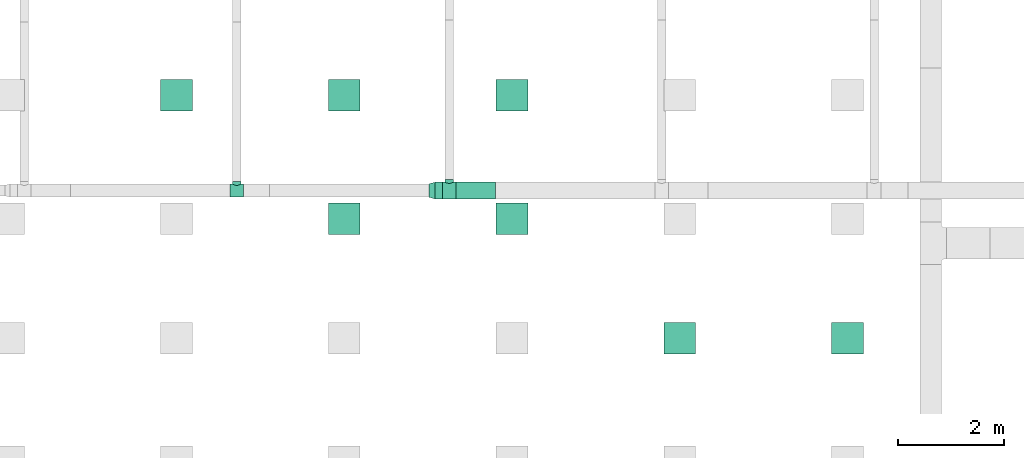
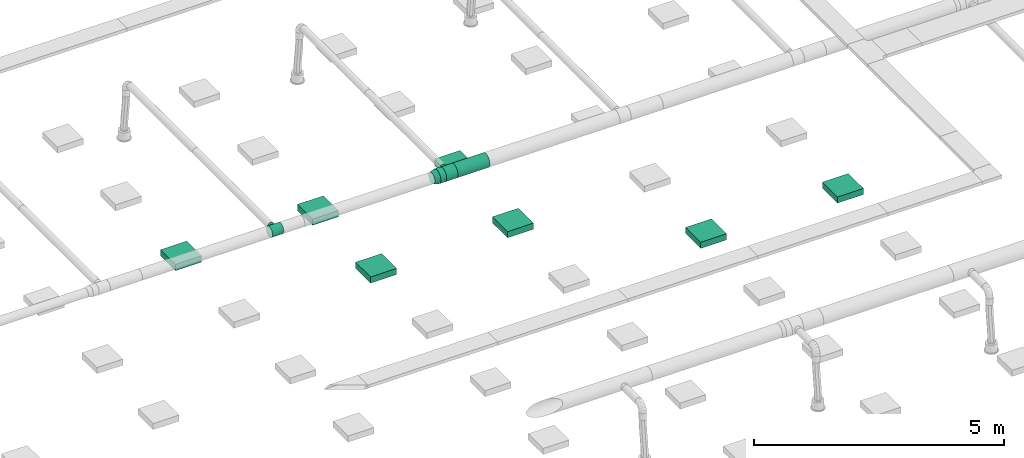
# One storey, part 28 of 374: 7 distribution elements, 3 flow fittings, 2 flow segments.
"""IFC2X3 building model written with IfcOpenShell, lengths in metres."""

from ifc_helpers import new_model, si_unit, direction, frame, frame_2d, origin, place, context, subcontext, project, spatial, rectangle, extrude, open_shell, surface_model, source, transform, mapped, element, save


model = new_model("IFC2X3")

# Units and contexts
model_context = context("Model", 3, precision=1e-05, world=origin(), true_north=direction((-0.4480736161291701, 0.8939966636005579)))
body_context = subcontext(model_context, "Body", "Model", "MODEL_VIEW")
ifc_project = project(units=[si_unit("LENGTHUNIT", "METRE"), si_unit("AREAUNIT", "SQUARE_METRE"), si_unit("VOLUMEUNIT", "CUBIC_METRE"), si_unit("PLANEANGLEUNIT", "RADIAN"), si_unit("THERMODYNAMICTEMPERATUREUNIT", "KELVIN"), si_unit("MASSUNIT", "GRAM", prefix="KILO"), si_unit("TIMEUNIT", "SECOND")], contexts=[model_context])

# Site, building, storey
site_placement = place(None, origin())
site = spatial("IfcSite", under=ifc_project, at=site_placement, Name="Site 1", CompositionType="ELEMENT")
building_placement = place(site_placement, origin())
building = spatial("IfcBuilding", under=site, at=building_placement, Name="Undefined", CompositionType="ELEMENT")
storey_placement = place(building_placement, origin())
storey = spatial("IfcBuildingStorey", under=building, at=storey_placement, Name="Rez de chauss\x8ee", CompositionType="ELEMENT", Elevation=0.0)

# Flow fitting
shared_shape_1 = source(origin(), body_context, "Body", "SurfaceModel", [
    surface_model("IfcFaceBasedSurfaceModel", [(0.0, 0.04111575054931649, 0.0), (0.0, 0.0, 0.0), (0.2599999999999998, -7.105427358e-15, 0.0), (0.259999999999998, 0.041115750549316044, 0.0), (0.0, -0.03971476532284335, -0.010641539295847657), (0.259999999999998, -0.03971476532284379, -0.010641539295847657), (0.0, -0.0753220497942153, -0.0311994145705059), (0.259999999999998, -0.07532204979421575, -0.0311994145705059), (0.0, -0.10439527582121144, -0.060272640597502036), (0.259999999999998, -0.10439527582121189, -0.060272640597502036), (0.0, -0.12495315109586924, -0.09587992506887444), (0.259999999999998, -0.12495315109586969, -0.09587992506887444), (0.0, -0.13559469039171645, -0.13559469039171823), (0.259999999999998, -0.1355946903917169, -0.13559469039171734), (0.0, -0.135594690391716, -0.17671044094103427), (0.259999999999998, -0.13559469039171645, -0.1767104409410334), (0.0, -0.1249531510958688, -0.21642520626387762), (0.259999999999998, -0.12495315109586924, -0.21642520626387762), (0.0, -0.10439527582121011, -0.2520324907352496), (0.259999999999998, -0.10439527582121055, -0.2520324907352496), (0.0, -0.07532204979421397, -0.2811057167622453), (0.259999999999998, -0.07532204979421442, -0.2811057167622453), (0.0, -0.039714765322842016, -0.3016635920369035), (0.259999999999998, -0.03971476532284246, -0.3016635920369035), (0.0, 1.776356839e-15, -0.3123051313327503), (0.259999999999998, 1.33226763e-15, -0.3123051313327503), (0.0, 0.041115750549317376, -0.31230513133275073), (0.259999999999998, 0.04111575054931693, -0.31230513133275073), (0.0, 0.08083051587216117, -0.30166359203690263), (0.259999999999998, 0.08083051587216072, -0.30166359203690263), (0.0, 0.11643780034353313, -0.28110571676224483), (0.259999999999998, 0.11643780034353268, -0.28110571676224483), (0.0, 0.14551102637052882, -0.25203249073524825), (0.259999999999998, 0.14551102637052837, -0.25203249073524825), (0.0, 0.16606890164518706, -0.2164252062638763), (0.259999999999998, 0.16606890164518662, -0.21642520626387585), (0.0, 0.17671044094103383, -0.1767104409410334), (0.259999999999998, 0.1767104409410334, -0.1767104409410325), (0.0, 0.17671044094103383, -0.1355946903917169), (0.259999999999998, 0.1767104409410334, -0.13559469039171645), (0.0, 0.16606890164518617, -0.09587992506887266), (0.259999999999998, 0.16606890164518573, -0.09587992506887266), (0.0, 0.14551102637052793, -0.06027264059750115), (0.259999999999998, 0.14551102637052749, -0.06027264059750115), (0.0, 0.1164378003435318, -0.031199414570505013), (0.259999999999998, 0.11643780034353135, -0.031199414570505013), (0.0, 0.08083051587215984, -0.010641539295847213), (0.259999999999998, 0.08083051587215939, -0.010641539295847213), (0.21000000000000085, 0.1767104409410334, -0.1767104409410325), (0.2072740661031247, 0.1726525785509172, -0.19706040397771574), (0.2072740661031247, 0.22605868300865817, -0.20409145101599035), (0.21000000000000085, 0.22876129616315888, -0.18356306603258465), (0.19928203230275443, 0.16636954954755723, -0.21569419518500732), (0.19928203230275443, 0.22354024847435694, -0.2232208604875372), (0.18656854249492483, 0.15890731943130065, -0.2314232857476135), (0.18656854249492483, 0.22137761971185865, -0.23964765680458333), (0.1699999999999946, 0.15174813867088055, -0.2433039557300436), (0.1699999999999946, 0.21971817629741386, -0.2522523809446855), (0.15070552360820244, 0.14653802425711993, -0.25067902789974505), (0.15070552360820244, 0.21867500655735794, -0.2601760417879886), (0.12999999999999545, 0.14462474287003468, -0.25317659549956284), (0.12999999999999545, 0.218319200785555, -0.26287865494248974), (0.10929447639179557, 0.14653802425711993, -0.25067902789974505), (0.10929447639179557, 0.21867500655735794, -0.2601760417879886), (0.0899999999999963, 0.15174813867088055, -0.2433039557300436), (0.0899999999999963, 0.21971817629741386, -0.2522523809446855), (0.07343145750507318, 0.15890731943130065, -0.2314232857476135), (0.07343145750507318, 0.22137761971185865, -0.23964765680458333), (0.06071796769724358, 0.16636954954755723, -0.21569419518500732), (0.06071796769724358, 0.22354024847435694, -0.2232208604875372), (0.0527259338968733, 0.1726525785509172, -0.19706040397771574), (0.0527259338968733, 0.22605868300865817, -0.20409145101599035), (0.04999999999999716, 0.1767104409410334, -0.1767104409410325), (0.04999999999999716, 0.22876129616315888, -0.18356306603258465), (0.0527259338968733, 0.17805780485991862, -0.15600363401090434), (0.0527259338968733, 0.2314639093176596, -0.16303468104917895), (0.06071796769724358, 0.1768116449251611, -0.13637860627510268), (0.06071796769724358, 0.23398234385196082, -0.14390527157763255), (0.07343145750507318, 0.1736746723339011, -0.11925410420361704), (0.07343145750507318, 0.2361449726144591, -0.12747847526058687), (0.0899999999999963, 0.1698343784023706, -0.10592532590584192), (0.0899999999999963, 0.2378044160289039, -0.11487375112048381), (0.10929447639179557, 0.16671060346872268, -0.09745307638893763), (0.10929447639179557, 0.23884758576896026, -0.10695009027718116), (0.12999999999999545, 0.16550893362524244, -0.09454541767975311), (0.12999999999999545, 0.23920339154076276, -0.10424747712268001), (0.15070552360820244, 0.16671060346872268, -0.09745307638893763), (0.15070552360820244, 0.23884758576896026, -0.10695009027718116), (0.1699999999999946, 0.1698343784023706, -0.10592532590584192), (0.1699999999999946, 0.2378044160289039, -0.11487375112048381), (0.18656854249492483, 0.1736746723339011, -0.11925410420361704), (0.18656854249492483, 0.2361449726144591, -0.12747847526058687), (0.19928203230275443, 0.1768116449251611, -0.13637860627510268), (0.19928203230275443, 0.23398234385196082, -0.14390527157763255), (0.2072740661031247, 0.17805780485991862, -0.15600363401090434), (0.2072740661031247, 0.2314639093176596, -0.16303468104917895)], [open_shell([[[0, 1, 2, 3]], [[1, 4, 5, 2]], [[4, 6, 7, 5]], [[6, 8, 9, 7]], [[8, 10, 11, 9]], [[10, 12, 13, 11]], [[12, 14, 15, 13]], [[14, 16, 17, 15]], [[16, 18, 19, 17]], [[18, 20, 21, 19]], [[20, 22, 23, 21]], [[22, 24, 25, 23]], [[24, 26, 27, 25]], [[26, 28, 29, 27]], [[28, 30, 31, 29]], [[30, 32, 33, 31]], [[32, 34, 35, 33]], [[34, 36, 37, 35]], [[36, 38, 39, 37]], [[38, 40, 41, 39]], [[40, 42, 43, 41]], [[42, 44, 45, 43]], [[44, 46, 47, 45]], [[46, 0, 3, 47]], [[48, 49, 50, 51]], [[49, 52, 53, 50]], [[52, 54, 55, 53]], [[54, 56, 57, 55]], [[56, 58, 59, 57]], [[58, 60, 61, 59]], [[60, 62, 63, 61]], [[62, 64, 65, 63]], [[64, 66, 67, 65]], [[66, 68, 69, 67]], [[68, 70, 71, 69]], [[70, 72, 73, 71]], [[72, 74, 75, 73]], [[74, 76, 77, 75]], [[76, 78, 79, 77]], [[78, 80, 81, 79]], [[80, 82, 83, 81]], [[82, 84, 85, 83]], [[84, 86, 87, 85]], [[86, 88, 89, 87]], [[88, 90, 91, 89]], [[90, 92, 93, 91]], [[92, 94, 95, 93]], [[94, 48, 51, 95]]])]),
])
flow_fitting_1_placement = place(storey_placement, origin())
element("IfcFlowFitting", 1, at=flow_fitting_1_placement, inside=storey, Name="Pièce en té 90°", ObjectType="Pièce en té 90°", context=body_context, shape_type="MappedRepresentation", body=[
    mapped(shared_shape_1, transform((18.850053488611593, 10.878429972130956, 3.952133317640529), x_axis=(1.0, 0.0, 0.0), y_axis=(0.0, 0.9914448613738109, 0.1305261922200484), z_axis=(0.0, -0.1305261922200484, 0.9914448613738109))),
])

# Flow segment
shared_shape_2 = source(origin(), body_context, "Body", "SurfaceModel", [
    surface_model("IfcFaceBasedSurfaceModel", [(0.0, 0.04111575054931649, 0.0), (0.0, 0.0, 0.0), (0.7400000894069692, 4.4408921e-16, 0.0), (0.7400000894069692, 0.04111575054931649, -4.4408921e-16), (0.0, -0.03971476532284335, -0.010641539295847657), (0.7400000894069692, -0.03971476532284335, -0.010641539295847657), (0.0, -0.0753220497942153, -0.0311994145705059), (0.7400000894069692, -0.0753220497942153, -0.0311994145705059), (0.0, -0.10439527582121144, -0.060272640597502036), (0.7400000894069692, -0.10439527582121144, -0.060272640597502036), (0.0, -0.12495315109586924, -0.09587992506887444), (0.7400000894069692, -0.12495315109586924, -0.09587992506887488), (0.0, -0.13559469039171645, -0.13559469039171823), (0.7400000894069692, -0.13559469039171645, -0.13559469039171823), (0.0, -0.135594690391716, -0.17671044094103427), (0.7400000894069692, -0.13559469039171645, -0.17671044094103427), (0.0, -0.1249531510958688, -0.21642520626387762), (0.7400000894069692, -0.1249531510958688, -0.21642520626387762), (0.0, -0.10439527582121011, -0.2520324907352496), (0.7400000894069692, -0.10439527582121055, -0.2520324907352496), (0.0, -0.07532204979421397, -0.2811057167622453), (0.7400000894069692, -0.07532204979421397, -0.2811057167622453), (0.0, -0.039714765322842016, -0.3016635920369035), (0.7400000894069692, -0.039714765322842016, -0.3016635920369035), (0.0, 1.776356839e-15, -0.3123051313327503), (0.7400000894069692, 1.776356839e-15, -0.31230513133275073), (0.0, 0.041115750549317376, -0.31230513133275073), (0.7400000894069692, 0.041115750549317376, -0.31230513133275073), (0.0, 0.08083051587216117, -0.30166359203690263), (0.7400000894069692, 0.08083051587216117, -0.30166359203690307), (0.0, 0.11643780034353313, -0.28110571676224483), (0.7400000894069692, 0.11643780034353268, -0.28110571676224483), (0.0, 0.14551102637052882, -0.25203249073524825), (0.7400000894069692, 0.14551102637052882, -0.25203249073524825), (0.0, 0.16606890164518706, -0.2164252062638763), (0.7400000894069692, 0.16606890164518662, -0.2164252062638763), (0.0, 0.17671044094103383, -0.1767104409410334), (0.7400000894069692, 0.17671044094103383, -0.1767104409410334), (0.0, 0.17671044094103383, -0.1355946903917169), (0.7400000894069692, 0.17671044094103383, -0.1355946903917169), (0.0, 0.16606890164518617, -0.09587992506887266), (0.7400000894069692, 0.16606890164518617, -0.09587992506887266), (0.0, 0.14551102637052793, -0.06027264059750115), (0.7400000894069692, 0.14551102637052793, -0.06027264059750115), (0.0, 0.1164378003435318, -0.031199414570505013), (0.7400000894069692, 0.1164378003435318, -0.031199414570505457), (0.0, 0.08083051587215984, -0.010641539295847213), (0.7400000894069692, 0.08083051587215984, -0.010641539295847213)], [open_shell([[[0, 1, 2, 3]], [[1, 4, 5, 2]], [[4, 6, 7, 5]], [[6, 8, 9, 7]], [[8, 10, 11, 9]], [[10, 12, 13, 11]], [[12, 14, 15, 13]], [[14, 16, 17, 15]], [[16, 18, 19, 17]], [[18, 20, 21, 19]], [[20, 22, 23, 21]], [[22, 24, 25, 23]], [[24, 26, 27, 25]], [[26, 28, 29, 27]], [[28, 30, 31, 29]], [[30, 32, 33, 31]], [[32, 34, 35, 33]], [[34, 36, 37, 35]], [[36, 38, 39, 37]], [[38, 40, 41, 39]], [[40, 42, 43, 41]], [[42, 44, 45, 43]], [[44, 46, 47, 45]], [[46, 0, 3, 47]]])]),
])
flow_segment_1_placement = place(storey_placement, origin())
element("IfcFlowSegment", 2, at=flow_segment_1_placement, inside=storey, Name="Tube", ObjectType="Tube", context=body_context, shape_type="MappedRepresentation", body=[
    mapped(shared_shape_2, transform((19.85005357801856, 10.95995797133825, 3.952133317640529), x_axis=(-1.0, 0.0, 0.0), y_axis=(7.266545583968e-12, -0.9914448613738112, 0.13052619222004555), z_axis=(0.0, 0.13052619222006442, 0.9914448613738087))),
])

# Flow fittings
shared_shape_3 = source(origin(), body_context, "Body", "SurfaceModel", [
    surface_model("IfcFaceBasedSurfaceModel", [(0.0014139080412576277, 0.04109143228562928, -1.776356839e-15), (0.0, 0.0, 0.0), (0.12335821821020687, 0.0, -1.776356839e-15), (0.12448036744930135, 0.03261224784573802, 0.0), (0.0014139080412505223, -0.03978691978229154, -0.010271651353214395), (0.12448036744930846, -0.031576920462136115, -0.008152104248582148), (0.005559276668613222, -0.07555791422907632, -0.03011495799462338), (0.12777034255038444, -0.059966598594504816, -0.023900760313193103), (0.012153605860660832, -0.10487524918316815, -0.05817763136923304), (0.1330039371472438, -0.0832343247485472, -0.04617272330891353), (0.020747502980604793, -0.12574099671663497, -0.09254724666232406), (0.13982449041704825, -0.09979444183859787, -0.07345019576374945), (0.030755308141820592, -0.13673319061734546, -0.13088157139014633), (0.1477671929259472, -0.10851840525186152, -0.10387426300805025), (0.041495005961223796, -0.13710273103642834, -0.1705681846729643), (0.15629076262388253, -0.10881169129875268, -0.13537157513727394), (0.052234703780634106, -0.12682443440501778, -0.20890250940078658), (0.16481433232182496, -0.10065431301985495, -0.16579564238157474), (0.0622425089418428, -0.10659874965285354, -0.24327212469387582), (0.1727570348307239, -0.08460218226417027, -0.19307311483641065), (0.07083640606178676, -0.07780402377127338, -0.2713347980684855), (0.17957758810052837, -0.06174922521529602, -0.21534507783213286), (0.07743073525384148, -0.04240256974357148, -0.29117810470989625), (0.18481118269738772, -0.03365283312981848, -0.23109373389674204), (0.08157610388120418, -0.0028069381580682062, -0.3014497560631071), (0.1881011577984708, -0.002227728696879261, -0.2392458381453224), (0.0829900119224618, 0.038284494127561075, -0.3014497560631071), (0.1892233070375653, 0.030384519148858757, -0.2392458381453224), (0.08157610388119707, 0.0780714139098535, -0.29117810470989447), (0.1881011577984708, 0.06196143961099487, -0.23109373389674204), (0.07743073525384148, 0.11384240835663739, -0.2713347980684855), (0.18481118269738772, 0.09035111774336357, -0.21534507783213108), (0.07083640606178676, 0.14315974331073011, -0.24327212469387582), (0.17957758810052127, 0.11361884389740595, -0.19307311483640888), (0.0622425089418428, 0.16402549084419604, -0.2089025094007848), (0.1727570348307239, 0.13017896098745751, -0.1657956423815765), (0.05223470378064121, 0.17501768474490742, -0.1705681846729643), (0.16481433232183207, 0.13890292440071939, -0.13537157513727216), (0.041495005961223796, 0.1753872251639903, -0.13088157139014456), (0.15629076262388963, 0.13919621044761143, -0.10387426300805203), (0.030755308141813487, 0.16510892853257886, -0.09254724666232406), (0.1477671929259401, 0.1310388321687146, -0.07345019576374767), (0.020747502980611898, 0.1448832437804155, -0.05817763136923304), (0.13982449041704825, 0.11498670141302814, -0.04617272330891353), (0.012153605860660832, 0.11608851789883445, -0.03011495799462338), (0.1330039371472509, 0.09213374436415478, -0.023900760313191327), (0.005559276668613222, 0.08068706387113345, -0.010271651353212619), (0.12777034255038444, 0.06403735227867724, -0.008152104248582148)], [open_shell([[[0, 1, 2, 3]], [[1, 4, 5, 2]], [[4, 6, 7, 5]], [[6, 8, 9, 7]], [[8, 10, 11, 9]], [[10, 12, 13, 11]], [[12, 14, 15, 13]], [[14, 16, 17, 15]], [[16, 18, 19, 17]], [[18, 20, 21, 19]], [[20, 22, 23, 21]], [[22, 24, 25, 23]], [[24, 26, 27, 25]], [[26, 28, 29, 27]], [[28, 30, 31, 29]], [[30, 32, 33, 31]], [[32, 34, 35, 33]], [[34, 36, 37, 35]], [[36, 38, 39, 37]], [[38, 40, 41, 39]], [[40, 42, 43, 41]], [[42, 44, 45, 43]], [[44, 46, 47, 45]], [[46, 0, 3, 47]]])]),
])
flow_fitting_2_placement = place(storey_placement, origin())
element("IfcFlowFitting", 3, at=flow_fitting_2_placement, inside=storey, Name="Réduction conique", ObjectType="Réduction conique", context=body_context, shape_type="MappedRepresentation", body=[
    mapped(shared_shape_3, transform((18.715053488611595, 11.071327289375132, 3.7592360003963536), x_axis=(-0.9646702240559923, -0.2544831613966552, 0.06818855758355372), y_axis=(0.033193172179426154, 0.1393599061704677, 0.9896853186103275), z_axis=(-0.26136099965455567, 0.9569833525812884, -0.12598924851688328))),
])
shared_shape_4 = source(origin(), body_context, "Body", "SurfaceModel", [
    surface_model("IfcFaceBasedSurfaceModel", [(0.0, 0.03263154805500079, 0.0), (0.0, 0.0, 0.0), (0.2599999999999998, -7.105427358e-15, 0.0), (0.2599999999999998, 0.03263154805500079, 0.0), (0.0, -0.031519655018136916, -0.008445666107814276), (0.2599999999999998, -0.031519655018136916, -0.008445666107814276), (0.0, -0.05977940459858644, -0.024761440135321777), (0.2599999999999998, -0.05977940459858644, -0.024761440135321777), (0.0, -0.08285339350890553, -0.047835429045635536), (0.2599999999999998, -0.08285339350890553, -0.047835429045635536), (0.0, -0.09916916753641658, -0.07609517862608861), (0.2599999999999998, -0.09916916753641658, -0.07609517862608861), (0.0, -0.1076148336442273, -0.10761483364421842), (0.2599999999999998, -0.1076148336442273, -0.10761483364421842), (0.0, -0.1076148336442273, -0.14024638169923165), (0.2599999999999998, -0.1076148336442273, -0.14024638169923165), (0.0, -0.09916916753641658, -0.17176603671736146), (0.2599999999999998, -0.09916916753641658, -0.17176603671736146), (0.0, -0.08285339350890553, -0.2000257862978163), (0.2599999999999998, -0.08285339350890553, -0.2000257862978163), (0.0, -0.059779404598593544, -0.22309977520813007), (0.2599999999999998, -0.059779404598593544, -0.22309977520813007), (0.0, -0.03151965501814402, -0.23941554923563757), (0.2599999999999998, -0.03151965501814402, -0.23941554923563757), (0.0, -1.4210854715e-14, -0.24786121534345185), (0.2599999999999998, -1.4210854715e-14, -0.24786121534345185), (0.0, 0.03263154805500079, -0.24786121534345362), (0.2599999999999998, 0.03263154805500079, -0.24786121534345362), (0.0, 0.0641512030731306, -0.23941554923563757), (0.2599999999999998, 0.0641512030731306, -0.23941554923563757), (0.0, 0.09241095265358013, -0.22309977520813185), (0.2599999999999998, 0.09241095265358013, -0.22309977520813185), (0.0, 0.11548494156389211, -0.2000257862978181), (0.2599999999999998, 0.11548494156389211, -0.2000257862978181), (0.0, 0.13180071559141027, -0.171766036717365), (0.2599999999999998, 0.13180071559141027, -0.171766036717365), (0.0, 0.140246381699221, -0.1402463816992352), (0.2599999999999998, 0.140246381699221, -0.1402463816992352), (0.0, 0.140246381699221, -0.10761483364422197), (0.2599999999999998, 0.140246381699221, -0.10761483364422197), (0.0, 0.13180071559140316, -0.07609517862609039), (0.2599999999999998, 0.13180071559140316, -0.07609517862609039), (0.0, 0.11548494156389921, -0.04783542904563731), (0.2599999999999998, 0.11548494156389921, -0.04783542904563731), (0.0, 0.09241095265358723, -0.024761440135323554), (0.2599999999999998, 0.09241095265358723, -0.024761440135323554), (0.0, 0.06415120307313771, -0.008445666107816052), (0.2599999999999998, 0.06415120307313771, -0.008445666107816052), (0.20999999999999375, 0.14024638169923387, -0.14024638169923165), (0.2072740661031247, 0.1358317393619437, -0.1605493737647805), (0.2072740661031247, 0.18711601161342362, -0.16730107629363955), (0.20999999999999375, 0.18981862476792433, -0.14677269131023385), (0.19928203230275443, 0.12850875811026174, -0.17904625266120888), (0.19928203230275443, 0.1845975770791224, -0.1864304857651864), (0.18656854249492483, 0.11944596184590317, -0.19456462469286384), (0.18656854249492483, 0.1824349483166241, -0.20285728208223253), (0.1699999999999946, 0.11042580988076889, -0.20620029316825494), (0.1699999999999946, 0.1807755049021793, -0.2154620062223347), (0.15070552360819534, 0.10364225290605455, -0.2133682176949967), (0.15070552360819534, 0.1797323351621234, -0.22338566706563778), (0.12999999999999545, 0.10109884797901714, -0.21578282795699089), (0.12999999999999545, 0.17937652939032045, -0.22608828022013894), (0.10929447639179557, 0.10364225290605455, -0.2133682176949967), (0.10929447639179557, 0.1797323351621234, -0.22338566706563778), (0.0899999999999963, 0.11042580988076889, -0.20620029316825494), (0.0899999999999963, 0.1807755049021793, -0.2154620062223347), (0.07343145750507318, 0.11944596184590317, -0.19456462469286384), (0.07343145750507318, 0.1824349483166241, -0.20285728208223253), (0.06071796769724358, 0.12850875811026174, -0.17904625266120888), (0.06071796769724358, 0.1845975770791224, -0.1864304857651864), (0.052725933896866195, 0.1358317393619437, -0.1605493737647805), (0.052725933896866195, 0.18711601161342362, -0.16730107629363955), (0.04999999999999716, 0.14024638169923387, -0.14024638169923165), (0.04999999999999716, 0.18981862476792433, -0.14677269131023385), (0.052725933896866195, 0.14123696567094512, -0.11949260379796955), (0.052725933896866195, 0.19252123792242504, -0.12624430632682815), (0.06071796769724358, 0.13895085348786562, -0.09973066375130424), (0.06071796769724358, 0.19503967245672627, -0.10711489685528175), (0.07343145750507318, 0.13421331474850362, -0.08239544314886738), (0.07343145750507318, 0.19720230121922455, -0.09068810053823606), (0.0899999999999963, 0.12851204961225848, -0.06882166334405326), (0.0899999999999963, 0.1988617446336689, -0.07808337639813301), (0.10929447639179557, 0.12381483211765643, -0.060142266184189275), (0.10929447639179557, 0.19990491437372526, -0.07015971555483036), (0.12999999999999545, 0.12198303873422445, -0.057151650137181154), (0.12999999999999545, 0.20026072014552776, -0.0674571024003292), (0.15070552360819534, 0.12381483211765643, -0.060142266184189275), (0.15070552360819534, 0.19990491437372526, -0.07015971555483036), (0.1699999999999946, 0.12851204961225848, -0.06882166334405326), (0.1699999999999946, 0.1988617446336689, -0.07808337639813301), (0.18656854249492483, 0.13421331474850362, -0.08239544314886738), (0.18656854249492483, 0.19720230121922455, -0.09068810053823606), (0.19928203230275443, 0.13895085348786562, -0.09973066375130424), (0.19928203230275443, 0.19503967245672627, -0.10711489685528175), (0.2072740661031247, 0.14123696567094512, -0.11949260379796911), (0.2072740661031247, 0.19252123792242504, -0.12624430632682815)], [open_shell([[[0, 1, 2, 3]], [[1, 4, 5, 2]], [[4, 6, 7, 5]], [[6, 8, 9, 7]], [[8, 10, 11, 9]], [[10, 12, 13, 11]], [[12, 14, 15, 13]], [[14, 16, 17, 15]], [[16, 18, 19, 17]], [[18, 20, 21, 19]], [[20, 22, 23, 21]], [[22, 24, 25, 23]], [[24, 26, 27, 25]], [[26, 28, 29, 27]], [[28, 30, 31, 29]], [[30, 32, 33, 31]], [[32, 34, 35, 33]], [[34, 36, 37, 35]], [[36, 38, 39, 37]], [[38, 40, 41, 39]], [[40, 42, 43, 41]], [[42, 44, 45, 43]], [[44, 46, 47, 45]], [[46, 0, 3, 47]], [[48, 49, 50, 51]], [[49, 52, 53, 50]], [[52, 54, 55, 53]], [[54, 56, 57, 55]], [[56, 58, 59, 57]], [[58, 60, 61, 59]], [[60, 62, 63, 61]], [[62, 64, 65, 63]], [[64, 66, 67, 65]], [[66, 68, 69, 67]], [[68, 70, 71, 69]], [[70, 72, 73, 71]], [[72, 74, 75, 73]], [[74, 76, 77, 75]], [[76, 78, 79, 77]], [[78, 80, 81, 79]], [[80, 82, 83, 81]], [[82, 84, 85, 83]], [[84, 86, 87, 85]], [[86, 88, 89, 87]], [[88, 90, 91, 89]], [[90, 92, 93, 91]], [[92, 94, 95, 93]], [[94, 48, 51, 95]]])]),
])
flow_fitting_3_placement = place(storey_placement, origin())
element("IfcFlowFitting", 4, at=flow_fitting_3_placement, inside=storey, Name="Pièce en té 90°", ObjectType="Pièce en té 90°", context=body_context, shape_type="MappedRepresentation", body=[
    mapped(shared_shape_4, transform((14.850053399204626, 10.88684159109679, 3.920740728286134), x_axis=(1.0, 0.0, 0.0), y_axis=(0.0, 0.9914448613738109, 0.1305261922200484), z_axis=(0.0, -0.1305261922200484, 0.9914448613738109))),
])

# Flow segment
shared_shape_5 = source(origin(), body_context, "Body", "SurfaceModel", [
    surface_model("IfcFaceBasedSurfaceModel", [(0.0, 0.04111575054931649, 0.0), (0.0, 0.0, 0.0), (0.13500000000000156, -7.105427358e-15, 8.8817842e-16), (0.1349999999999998, 0.041115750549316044, -4.4408921e-16), (0.0, -0.03971476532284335, -0.010641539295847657), (0.1349999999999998, -0.03971476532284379, -0.010641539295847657), (0.0, -0.0753220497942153, -0.0311994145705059), (0.1349999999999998, -0.0753220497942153, -0.0311994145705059), (0.0, -0.10439527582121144, -0.060272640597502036), (0.1349999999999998, -0.10439527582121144, -0.060272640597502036), (0.0, -0.12495315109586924, -0.09587992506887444), (0.1349999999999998, -0.12495315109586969, -0.095879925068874), (0.0, -0.13559469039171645, -0.13559469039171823), (0.1349999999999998, -0.13559469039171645, -0.1355946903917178), (0.0, -0.135594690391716, -0.17671044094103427), (0.1349999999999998, -0.1355946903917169, -0.1767104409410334), (0.0, -0.1249531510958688, -0.21642520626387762), (0.1349999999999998, -0.12495315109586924, -0.21642520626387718), (0.0, -0.10439527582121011, -0.2520324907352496), (0.1349999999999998, -0.104395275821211, -0.25203249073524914), (0.0, -0.07532204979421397, -0.2811057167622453), (0.1349999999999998, -0.07532204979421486, -0.28110571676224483), (0.0, -0.039714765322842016, -0.3016635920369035), (0.1349999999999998, -0.03971476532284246, -0.30166359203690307), (0.0, 1.776356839e-15, -0.3123051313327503), (0.1349999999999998, 4.4408921e-16, -0.31230513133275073), (0.0, 0.041115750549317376, -0.31230513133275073), (0.1349999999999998, 0.04111575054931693, -0.3123051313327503), (0.0, 0.08083051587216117, -0.30166359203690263), (0.1349999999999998, 0.08083051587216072, -0.30166359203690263), (0.0, 0.11643780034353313, -0.28110571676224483), (0.1349999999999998, 0.11643780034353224, -0.2811057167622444), (0.0, 0.14551102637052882, -0.25203249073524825), (0.1349999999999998, 0.14551102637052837, -0.25203249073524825), (0.0, 0.16606890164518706, -0.2164252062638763), (0.1349999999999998, 0.16606890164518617, -0.2164252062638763), (0.0, 0.17671044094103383, -0.1767104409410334), (0.1349999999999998, 0.17671044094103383, -0.17671044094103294), (0.0, 0.17671044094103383, -0.1355946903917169), (0.1349999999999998, 0.1767104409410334, -0.1355946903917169), (0.0, 0.16606890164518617, -0.09587992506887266), (0.1349999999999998, 0.16606890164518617, -0.0958799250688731), (0.0, 0.14551102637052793, -0.06027264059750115), (0.1349999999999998, 0.14551102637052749, -0.06027264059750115), (0.0, 0.1164378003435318, -0.031199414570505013), (0.1349999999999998, 0.1164378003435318, -0.031199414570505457), (0.0, 0.08083051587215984, -0.010641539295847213), (0.1349999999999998, 0.08083051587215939, -0.010641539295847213)], [open_shell([[[0, 1, 2, 3]], [[1, 4, 5, 2]], [[4, 6, 7, 5]], [[6, 8, 9, 7]], [[8, 10, 11, 9]], [[10, 12, 13, 11]], [[12, 14, 15, 13]], [[14, 16, 17, 15]], [[16, 18, 19, 17]], [[18, 20, 21, 19]], [[20, 22, 23, 21]], [[22, 24, 25, 23]], [[24, 26, 27, 25]], [[26, 28, 29, 27]], [[28, 30, 31, 29]], [[30, 32, 33, 31]], [[32, 34, 35, 33]], [[34, 36, 37, 35]], [[36, 38, 39, 37]], [[38, 40, 41, 39]], [[40, 42, 43, 41]], [[42, 44, 45, 43]], [[44, 46, 47, 45]], [[46, 0, 3, 47]]])]),
])
flow_segment_2_placement = place(storey_placement, origin())
element("IfcFlowSegment", 5, at=flow_segment_2_placement, inside=storey, Name="Manchon", ObjectType="Manchon", context=body_context, shape_type="MappedRepresentation", body=[
    mapped(shared_shape_5, transform((18.850053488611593, 10.95995797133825, 3.952133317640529), x_axis=(-1.0, 0.0, 0.0), y_axis=(7.266545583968e-12, -0.9914448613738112, 0.13052619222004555), z_axis=(0.0, 0.13052619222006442, 0.9914448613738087))),
])

# Distribution elements
distribution_element_1_placement = place(storey_placement, origin())
element("IfcDistributionElement", 6, at=distribution_element_1_placement, inside=storey, Name="Decken-Rechteckleuchte mit Rahmen AP", ObjectType="Decken-Rechteckleuchte mit Rahmen AP", context=body_context, shape_type="SweptSolid", body=[
    extrude(rectangle(XDim=0.6000000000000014, YDim=0.6000000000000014, at=frame_2d((3.552713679e-15, 0.0), x_axis=(0.0, 1.0))), frame((23.320441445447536, 8.1375, 2.5500000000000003), z_axis=(0.0, 0.0, -1.0), x_axis=(1.0, 0.0, 0.0)), (0.0, 0.0, 1.0), 0.15),
])
distribution_element_2_placement = place(storey_placement, origin())
element("IfcDistributionElement", 7, at=distribution_element_2_placement, inside=storey, Name="Decken-Rechteckleuchte mit Rahmen AP", ObjectType="Decken-Rechteckleuchte mit Rahmen AP", context=body_context, shape_type="SweptSolid", body=[
    extrude(rectangle(XDim=0.6000000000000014, YDim=0.6000000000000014, at=frame_2d((3.552713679e-15, 0.0), x_axis=(0.0, 1.0))), frame((13.846914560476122, 12.712499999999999, 2.5500000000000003), z_axis=(0.0, 0.0, -1.0), x_axis=(1.0, 0.0, 0.0)), (0.0, 0.0, 1.0), 0.15),
])
distribution_element_3_placement = place(storey_placement, origin())
element("IfcDistributionElement", 8, at=distribution_element_3_placement, inside=storey, Name="Decken-Rechteckleuchte mit Rahmen AP", ObjectType="Decken-Rechteckleuchte mit Rahmen AP", context=body_context, shape_type="SweptSolid", body=[
    extrude(rectangle(XDim=0.6000000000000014, YDim=0.6000000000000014, at=frame_2d((3.552713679e-15, 0.0), x_axis=(0.0, 1.0))), frame((20.162599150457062, 10.3875, 2.5500000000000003), z_axis=(0.0, 0.0, -1.0), x_axis=(1.0, 0.0, 0.0)), (0.0, 0.0, 1.0), 0.15),
])
distribution_element_4_placement = place(storey_placement, origin())
element("IfcDistributionElement", 9, at=distribution_element_4_placement, inside=storey, Name="Decken-Rechteckleuchte mit Rahmen AP", ObjectType="Decken-Rechteckleuchte mit Rahmen AP", context=body_context, shape_type="SweptSolid", body=[
    extrude(rectangle(XDim=0.6000000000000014, YDim=0.6000000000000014, at=frame_2d((3.552713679e-15, 0.0), x_axis=(0.0, 1.0))), frame((17.004756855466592, 10.3875, 2.5500000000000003), z_axis=(0.0, 0.0, -1.0), x_axis=(1.0, 0.0, 0.0)), (0.0, 0.0, 1.0), 0.15),
])
distribution_element_5_placement = place(storey_placement, origin())
element("IfcDistributionElement", 10, at=distribution_element_5_placement, inside=storey, Name="Decken-Rechteckleuchte mit Rahmen AP", ObjectType="Decken-Rechteckleuchte mit Rahmen AP", context=body_context, shape_type="SweptSolid", body=[
    extrude(rectangle(XDim=0.6000000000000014, YDim=0.6000000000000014, at=frame_2d((3.552713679e-15, 0.0), x_axis=(0.0, 1.0))), frame((20.162599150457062, 12.712499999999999, 2.5500000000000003), z_axis=(0.0, 0.0, -1.0), x_axis=(1.0, 0.0, 0.0)), (0.0, 0.0, 1.0), 0.15),
])
distribution_element_6_placement = place(storey_placement, origin())
element("IfcDistributionElement", 11, at=distribution_element_6_placement, inside=storey, Name="Decken-Rechteckleuchte mit Rahmen AP", ObjectType="Decken-Rechteckleuchte mit Rahmen AP", context=body_context, shape_type="SweptSolid", body=[
    extrude(rectangle(XDim=0.6000000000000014, YDim=0.6000000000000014, at=frame_2d((3.552713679e-15, 0.0), x_axis=(0.0, 1.0))), frame((26.478283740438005, 8.1375, 2.5500000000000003), z_axis=(0.0, 0.0, -1.0), x_axis=(1.0, 0.0, 0.0)), (0.0, 0.0, 1.0), 0.15),
])
distribution_element_7_placement = place(storey_placement, origin())
element("IfcDistributionElement", 12, at=distribution_element_7_placement, inside=storey, Name="Decken-Rechteckleuchte mit Rahmen AP", ObjectType="Decken-Rechteckleuchte mit Rahmen AP", context=body_context, shape_type="SweptSolid", body=[
    extrude(rectangle(XDim=0.6000000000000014, YDim=0.6000000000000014, at=frame_2d((3.552713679e-15, 0.0), x_axis=(0.0, 1.0))), frame((17.004756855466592, 12.712499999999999, 2.5500000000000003), z_axis=(0.0, 0.0, -1.0), x_axis=(1.0, 0.0, 0.0)), (0.0, 0.0, 1.0), 0.15),
])

save(model, "model.ifc")
